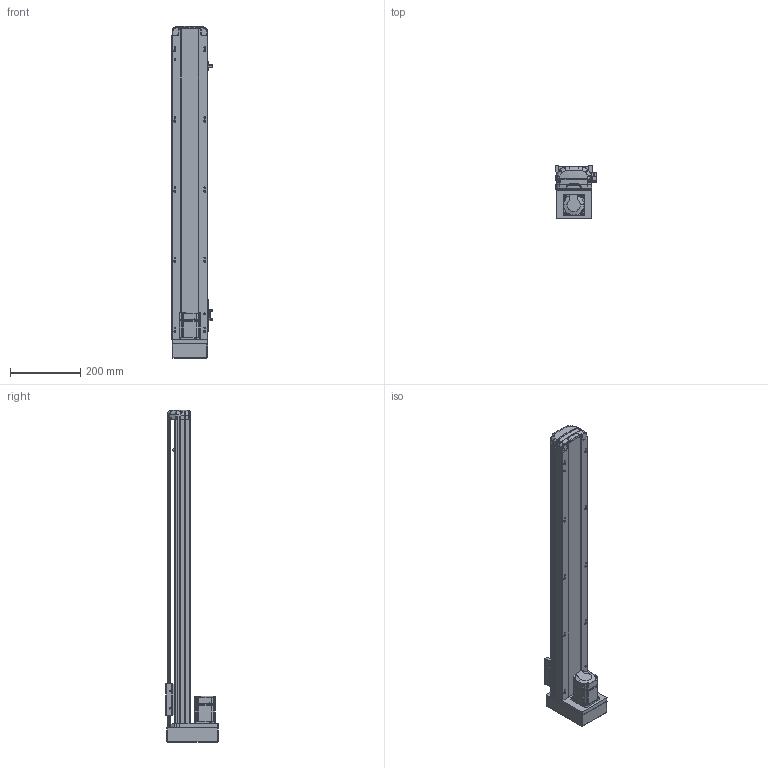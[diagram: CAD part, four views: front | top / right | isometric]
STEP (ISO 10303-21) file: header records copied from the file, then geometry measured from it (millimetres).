
FILE_DESCRIPTION (( 'STEP AP214' ), '1' );
FILE_NAME ('RTH10-XX-700-M-M20-C4.STEP', '2025-10-25T04:51:14', ( 'Microsoft' ), ( 'Microsoft' ), 'SwSTEP 2.0', 'SolidWorks 2018', '' );
FILE_SCHEMA (( 'AUTOMOTIVE_DESIGN' ));
Length unit declared in the file: millimetre
Products named in the file (10): N_RTH12-GY-001P^RTH10-XX-XX-M-M20-C4; N_RTH12-M-007P-奻裔^RTH10-XX-XX-M-M20-C4; N_RTH13-L-012覜茼え俋离^RTH10-XX-XX-M-M20-C4; N_RTH12-M-008-萇儂啣^RTH10-XX-XX-M-M20-C4; RTH10-XX-700-M-M20-C4; N_RTH12-M-011P-臏倰第菁釱^RTH10-XX-XX-M-M20-C4; N_200W-1^RTH10-XX-XX-M-M20-C4; N_RTH12-GY-004-賑釱^RTH10-XX-XX-M-M20-C4; N_RTH12-M-018-裔赽^RTH10-XX-XX-M-M20-C4; N_OMRON EE-SX672 传感器^RTH10-XX-XX-M-M20-C4
Assembly tree (11 placements, depth 2):
  RTH10-XX-700-M-M20-C4
    N_RTH12-M-011P-臏倰第菁釱^RTH10-XX-XX-M-M20-C4
    N_RTH13-L-012覜茼え俋离^RTH10-XX-XX-M-M20-C4
    N_OMRON EE-SX672 传感器^RTH10-XX-XX-M-M20-C4  x3
    N_200W-1^RTH10-XX-XX-M-M20-C4
    N_RTH12-M-007P-奻裔^RTH10-XX-XX-M-M20-C4
    N_RTH12-M-008-萇儂啣^RTH10-XX-XX-M-M20-C4
    N_RTH12-M-018-裔赽^RTH10-XX-XX-M-M20-C4
    N_RTH12-GY-004-賑釱^RTH10-XX-XX-M-M20-C4
    N_RTH12-GY-001P^RTH10-XX-XX-M-M20-C4
Bounding box: 116.5 x 149 x 947.14 mm (x, y, z)
Volume: 4443697.7 mm3; surface area: 658962.4 mm2
Topology: 10 solids, 12 shells, 1989 faces, 5548 edges, 3643 vertices
Faces by surface type: plane 991, cylinder 491, bspline 472, cone 29, sphere 4, torus 2
Entity records: 59938 total; most frequent: CARTESIAN_POINT 23443, ORIENTED_EDGE 8168, DIRECTION 6338, EDGE_CURVE 4090, VERTEX_POINT 2687, LINE 2198, VECTOR 2198, AXIS2_PLACEMENT_3D 2070
